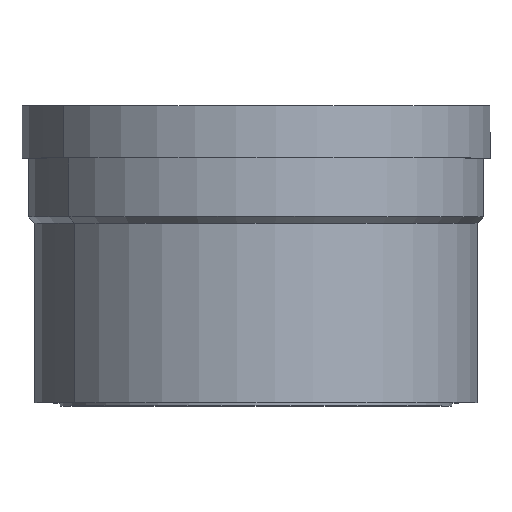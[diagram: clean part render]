
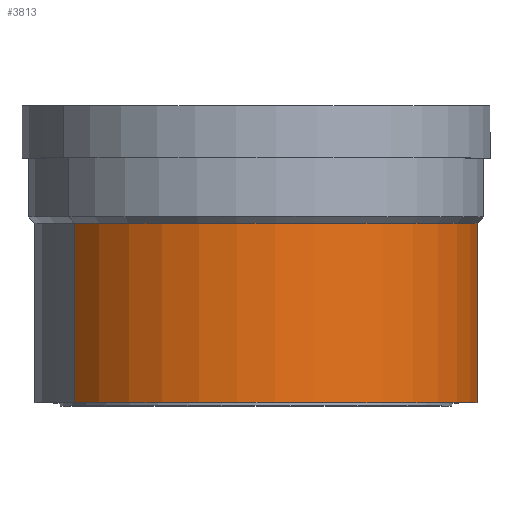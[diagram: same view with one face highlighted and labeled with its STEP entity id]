
A CAD part, top view. The second image highlights one B-rep face of the part: STEP entity #3813.
In plain terms, the highlighted cylindrical face has radius 34 mm (diameter 68 mm), a partial arc.
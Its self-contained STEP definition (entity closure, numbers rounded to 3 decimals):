
#426=CARTESIAN_POINT('',(0.,-4.,0.));
#427=DIRECTION('',(0.,1.,0.));
#428=DIRECTION('',(-0.819,0.,0.574));
#429=AXIS2_PLACEMENT_3D('',#426,#427,#428);
#431=DIRECTION('',(0.,-1.,0.));
#432=VECTOR('',#431,27.5);
#433=CARTESIAN_POINT('',(-27.851,-4.,19.502));
#434=LINE('',#433,#432);
#435=DIRECTION('',(0.,1.,0.));
#436=VECTOR('',#435,27.5);
#437=CARTESIAN_POINT('',(27.851,-31.5,-19.502));
#438=LINE('',#437,#436);
#449=CARTESIAN_POINT('',(0.,-31.5,0.));
#450=DIRECTION('',(0.,1.,0.));
#451=DIRECTION('',(-0.819,0.,0.574));
#452=AXIS2_PLACEMENT_3D('',#449,#450,#451);
#2827=CARTESIAN_POINT('',(-27.851,-4.,19.502));
#2829=VERTEX_POINT('',#2827);
#2832=CARTESIAN_POINT('',(27.851,-4.,-19.502));
#2834=VERTEX_POINT('',#2832);
#2835=CARTESIAN_POINT('',(-27.851,-31.5,19.502));
#2836=VERTEX_POINT('',#2835);
#2837=CARTESIAN_POINT('',(27.851,-31.5,-19.502));
#2838=VERTEX_POINT('',#2837);
#3799=CARTESIAN_POINT('',(0.,-32.05,0.));
#3800=DIRECTION('',(0.,1.,0.));
#3801=DIRECTION('',(0.819,0.,-0.574));
#3802=AXIS2_PLACEMENT_3D('',#3799,#3800,#3801);
#3803=CYLINDRICAL_SURFACE('',#3802,34.);
#3805=ORIENTED_EDGE('',*,*,#3804,.F.);
#3806=ORIENTED_EDGE('',*,*,#3794,.T.);
#3808=ORIENTED_EDGE('',*,*,#3807,.F.);
#3810=ORIENTED_EDGE('',*,*,#3809,.F.);
#3811=EDGE_LOOP('',(#3805,#3806,#3808,#3810));
#3812=FACE_OUTER_BOUND('',#3811,.F.);
#430=CIRCLE('',#429,34.);
#453=CIRCLE('',#452,34.);
#3794=EDGE_CURVE('',#2829,#2834,#430,.T.);
#3804=EDGE_CURVE('',#2829,#2836,#434,.T.);
#3807=EDGE_CURVE('',#2838,#2834,#438,.T.);
#3809=EDGE_CURVE('',#2836,#2838,#453,.T.);
#3813=ADVANCED_FACE('',(#3812),#3803,.T.);
